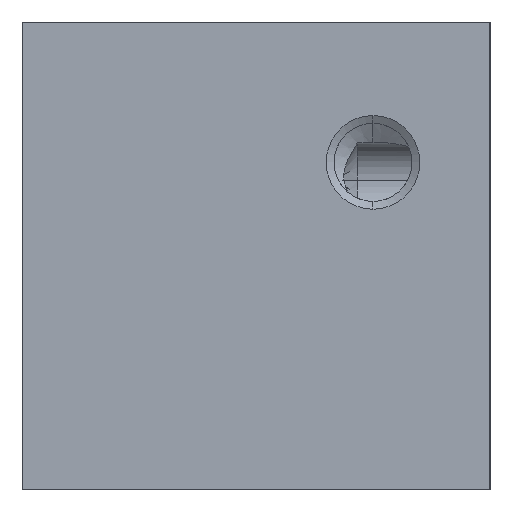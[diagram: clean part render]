
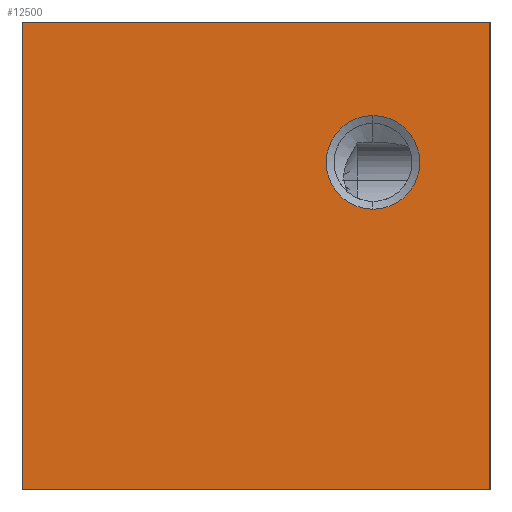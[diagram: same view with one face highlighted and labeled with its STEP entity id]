
A CAD part, left-side view. The second image highlights one B-rep face of the part: STEP entity #12500.
In plain terms, the highlighted planar face has unit normal (-1, 0, 0).
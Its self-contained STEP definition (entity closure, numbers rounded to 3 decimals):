
#280 = ORIENTED_EDGE ( 'NONE', *, *, #10807, .F. ) ;
#343 = CIRCLE ( 'NONE', #6769, 6. ) ;
#857 = DIRECTION ( 'NONE',  ( 0., 0., 1. ) ) ;
#1280 = CARTESIAN_POINT ( 'NONE',  ( 0., 30., 30. ) ) ;
#1519 = AXIS2_PLACEMENT_3D ( 'NONE', #10753, #10908, #11271 ) ;
#2112 = VERTEX_POINT ( 'NONE', #12845 ) ;
#2121 = VERTEX_POINT ( 'NONE', #5848 ) ;
#4232 = CARTESIAN_POINT ( 'NONE',  ( 0., -30., 30. ) ) ;
#4275 = DIRECTION ( 'NONE',  ( 0., 0., -1. ) ) ;
#4950 = EDGE_CURVE ( 'NONE', #13898, #12238, #6360, .T. ) ;
#4987 = AXIS2_PLACEMENT_3D ( 'NONE', #14613, #14601, #14582 ) ;
#5292 = ORIENTED_EDGE ( 'NONE', *, *, #4950, .F. ) ;
#5372 = EDGE_CURVE ( 'NONE', #15437, #2121, #10301, .T. ) ;
#5441 = EDGE_CURVE ( 'NONE', #2121, #13898, #10973, .T. ) ;
#5457 = EDGE_CURVE ( 'NONE', #12238, #15437, #11058, .T. ) ;
#5459 = EDGE_CURVE ( 'NONE', #2112, #9295, #10567, .T. ) ;
#5848 = CARTESIAN_POINT ( 'NONE',  ( 0., -30., -30. ) ) ;
#6360 = LINE ( 'NONE', #1280, #10223 ) ;
#6661 = CARTESIAN_POINT ( 'NONE',  ( 0., -15., 6. ) ) ;
#6769 = AXIS2_PLACEMENT_3D ( 'NONE', #15289, #15277, #15245 ) ;
#6866 = ORIENTED_EDGE ( 'NONE', *, *, #5457, .F. ) ;
#7093 = FACE_OUTER_BOUND ( 'NONE', #8245, .T. ) ;
#7110 = FACE_BOUND ( 'NONE', #8006, .T. ) ;
#7580 = DIRECTION ( 'NONE',  ( 0., 1., 0. ) ) ;
#7983 = ORIENTED_EDGE ( 'NONE', *, *, #5372, .F. ) ;
#8006 = EDGE_LOOP ( 'NONE', ( #11015, #280 ) ) ;
#8245 = EDGE_LOOP ( 'NONE', ( #13743, #7983, #6866, #5292 ) ) ;
#8272 = CARTESIAN_POINT ( 'NONE',  ( 0., -30., 30. ) ) ;
#8771 = CARTESIAN_POINT ( 'NONE',  ( 0., -30., 30. ) ) ;
#8973 = CARTESIAN_POINT ( 'NONE',  ( 0., -30., -30. ) ) ;
#9295 = VERTEX_POINT ( 'NONE', #6661 ) ;
#9609 = DIRECTION ( 'NONE',  ( 0., -1., 0. ) ) ;
#10223 = VECTOR ( 'NONE', #857, 1000. ) ;
#10301 = LINE ( 'NONE', #4232, #12144 ) ;
#10567 = CIRCLE ( 'NONE', #1519, 6. ) ;
#10753 = CARTESIAN_POINT ( 'NONE',  ( 0., -15., 12. ) ) ;
#10807 = EDGE_CURVE ( 'NONE', #9295, #2112, #343, .T. ) ;
#10908 = DIRECTION ( 'NONE',  ( -1., 0., 0. ) ) ;
#10973 = LINE ( 'NONE', #8973, #11034 ) ;
#11015 = ORIENTED_EDGE ( 'NONE', *, *, #5459, .F. ) ;
#11034 = VECTOR ( 'NONE', #7580, 1000. ) ;
#11058 = LINE ( 'NONE', #8771, #11299 ) ;
#11271 = DIRECTION ( 'NONE',  ( 0., 0., 1. ) ) ;
#11299 = VECTOR ( 'NONE', #9609, 1000. ) ;
#11855 = CARTESIAN_POINT ( 'NONE',  ( 0., 30., -30. ) ) ;
#12144 = VECTOR ( 'NONE', #4275, 1000. ) ;
#12238 = VERTEX_POINT ( 'NONE', #14854 ) ;
#12500 = ADVANCED_FACE ( 'NONE', ( #7110, #7093 ), #14743, .T. ) ;
#12845 = CARTESIAN_POINT ( 'NONE',  ( 0., -15., 18. ) ) ;
#13743 = ORIENTED_EDGE ( 'NONE', *, *, #5441, .F. ) ;
#13898 = VERTEX_POINT ( 'NONE', #11855 ) ;
#14582 = DIRECTION ( 'NONE',  ( 0., 0., 1. ) ) ;
#14601 = DIRECTION ( 'NONE',  ( -1., 0., 0. ) ) ;
#14613 = CARTESIAN_POINT ( 'NONE',  ( 0., 30., -30. ) ) ;
#14743 = PLANE ( 'NONE',  #4987 ) ;
#14854 = CARTESIAN_POINT ( 'NONE',  ( 0., 30., 30. ) ) ;
#15245 = DIRECTION ( 'NONE',  ( 0., 0., 1. ) ) ;
#15277 = DIRECTION ( 'NONE',  ( -1., 0., 0. ) ) ;
#15289 = CARTESIAN_POINT ( 'NONE',  ( 0., -15., 12. ) ) ;
#15437 = VERTEX_POINT ( 'NONE', #8272 ) ;
